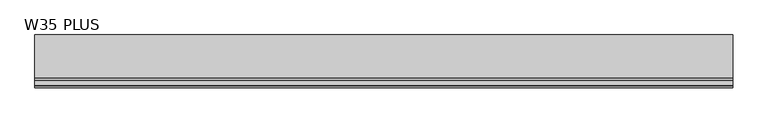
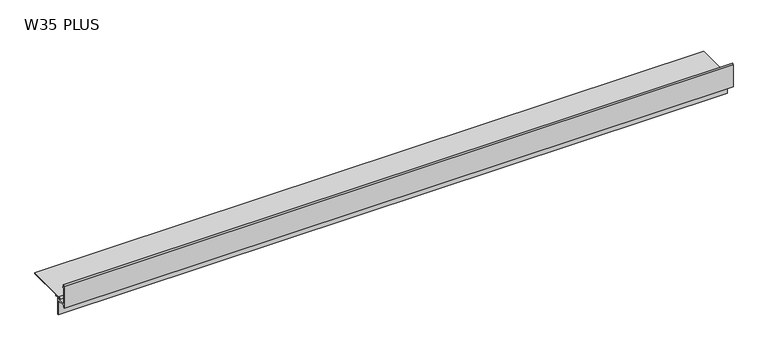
"""IFC4 building model written with IfcOpenShell, lengths in millimetres: proxy geometry, W35 PLUS Profil okapowy prosty z rynną : W35 PLUS."""

from ifc_helpers import new_model, si_unit, point, frame, frame_2d, origin, place, context, project, spatial, polyline, circle_curve, trimmed, segment, composite_curve, outline, extrude, source, transform, mapped, element, save


def w35_plus_b0e108dd(model_context):
    return source(origin(), model_context, "Body", "SweptSolid", [
        extrude(outline(composite_curve([segment(polyline([(-26.9999998, -2.4508786), (-27.7562498, -2.9804106), (-27.7562498, -6.1936589), (-25.2562498, -6.1936589), (-25.2562498, -7.8936589), (-27.7562498, -7.8936589), (-27.7562498, -42.9936588), (-8.3562498, -42.9936588), (-8.3562498, -37.6936589), (-11.3662498, -37.6936589)]), True, "CONTINUOUS"), segment(trimmed(circle_curve(frame_2d((-11.3662498, -40.1936589)), 2.5), [point((-11.3662498, -37.6936589))], [point((-13.7662498, -39.4936589))], True, "CARTESIAN"), True, "CONTINUOUS"), segment(polyline([(-13.7662498, -39.4936589), (-15.3045235, -39.4936589)]), True, "CONTINUOUS"), segment(trimmed(circle_curve(frame_2d((-11.3662498, -40.1936589)), 4.0), [point((-15.3045235, -39.4936589))], [point((-11.3662498, -36.1936589))], False, "CARTESIAN"), True, "CONTINUOUS"), segment(polyline([(-11.3662498, -36.1936589), (73.3437501, -36.1936589), (73.3437501, -37.8936589), (-0.15625, -37.8936589), (-0.15625, -41.0936589), (-1.65625, -41.0936589), (-1.65625, -37.8936589), (-6.65625, -37.8936589), (-6.65625, -77.3936589), (-8.3562498, -77.3936589), (-8.3562498, -44.6936591), (-13.0319857, -44.6936591), (-15.0562498, -46.7179229), (-15.0562498, -44.6936589), (-27.9562498, -44.6936589), (-27.9562498, -48.3472123), (-29.4562499, -49.8472122), (-29.4562499, -3.451076)]), True, "CONTINUOUS"), segment(trimmed(circle_curve(frame_2d((-27.1562498, -3.451076)), 2.3000001), [point((-29.4562499, -3.451076))], [point((-26.9999998, -1.1563894))], False, "CARTESIAN"), True, "CONTINUOUS"), segment(polyline([(-26.9999998, -1.1563894), (-26.9999998, -2.4508786)]), True, "CONTINUOUS")], self_intersect=False)), frame((0.0, 0.0, 0.0), z_axis=(1.0, 0.0, 0.0), x_axis=(0.0, 1.0, 0.0)), (0.0, 0.0, 1.0), 1360.0),
    ])


if __name__ == "__main__":
    model = new_model("IFC4")
    model_context = context("Model", 3, world=origin())
    ifc_project = project(units=[si_unit("LENGTHUNIT", "METRE", prefix="MILLI")], contexts=[model_context])
    site = spatial("IfcSite", under=ifc_project)
    building = spatial("IfcBuilding", under=site)
    placement = place(None, origin())
    w35_plus_shape = w35_plus_b0e108dd(model_context)
    element("IfcBuildingElementProxy", 1, Name="W35 PLUS Profil okapowy prosty z rynną : W35 PLUS", ObjectType="W35 PLUS Profil okapowy prosty z rynną : W35 PLUS", at=placement, inside=building, context=model_context, shape_type="MappedRepresentation", body=[
        mapped(w35_plus_shape, transform((0.0, 0.0, 0.0), x_axis=(1.0, 0.0, 0.0), y_axis=(0.0, 1.0, 0.0), z_axis=(0.0, 0.0, 1.0))),
    ])
    save(model, "model.ifc")
